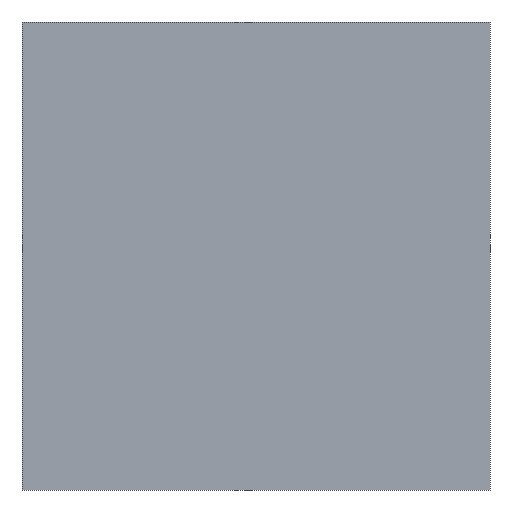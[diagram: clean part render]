
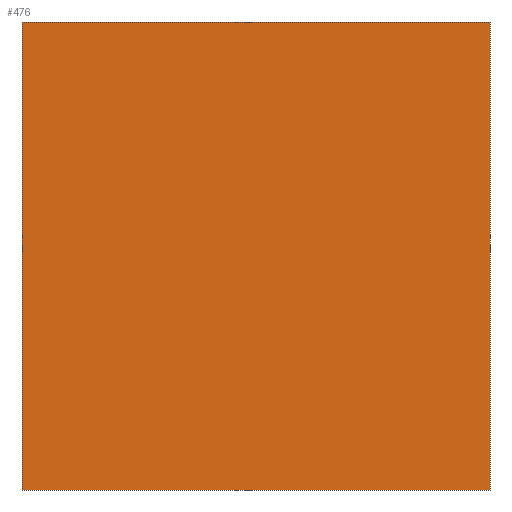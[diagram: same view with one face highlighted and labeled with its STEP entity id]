
A CAD part, front view. The second image highlights one B-rep face of the part: STEP entity #476.
In plain terms, the highlighted planar face has unit normal (0, -1, 0).
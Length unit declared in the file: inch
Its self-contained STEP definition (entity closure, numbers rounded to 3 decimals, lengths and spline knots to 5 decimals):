
#365=CARTESIAN_POINT('',(0.0,0.0,0.812));
#366=VERTEX_POINT('',#365);
#373=CARTESIAN_POINT('',(0.812,0.0,0.812));
#374=VERTEX_POINT('',#373);
#375=CARTESIAN_POINT('',(0.812,0.0,0.812));
#376=DIRECTION('',(-1.0,0.0,0.0));
#377=VECTOR('',#376,0.812);
#378=LINE('',#375,#377);
#379=EDGE_CURVE('',#374,#366,#378,.T.);
#419=CARTESIAN_POINT('',(0.0,0.0,0.0));
#420=VERTEX_POINT('',#419);
#427=CARTESIAN_POINT('',(0.0,0.0,0.0));
#428=DIRECTION('',(0.0,0.0,1.0));
#429=VECTOR('',#428,0.812);
#430=LINE('',#427,#429);
#431=EDGE_CURVE('',#420,#366,#430,.T.);
#442=CARTESIAN_POINT('',(0.812,0.0,0.0));
#443=VERTEX_POINT('',#442);
#444=CARTESIAN_POINT('',(0.812,0.0,0.0));
#445=DIRECTION('',(0.0,0.0,1.0));
#446=VECTOR('',#445,0.812);
#447=LINE('',#444,#446);
#448=EDGE_CURVE('',#443,#374,#447,.T.);
#460=CARTESIAN_POINT('',(0.812,0.0,0.0));
#461=DIRECTION('',(0.0,-1.0,0.0));
#462=DIRECTION('',(0.0,0.0,-1.0));
#463=AXIS2_PLACEMENT_3D('',#460,#461,#462);
#464=PLANE('',#463);
#465=ORIENTED_EDGE('',*,*,#379,.T.);
#466=ORIENTED_EDGE('',*,*,#431,.F.);
#467=CARTESIAN_POINT('',(0.0,0.0,0.0));
#468=DIRECTION('',(1.0,0.0,0.0));
#469=VECTOR('',#468,0.812);
#470=LINE('',#467,#469);
#471=EDGE_CURVE('',#420,#443,#470,.T.);
#472=ORIENTED_EDGE('',*,*,#471,.T.);
#473=ORIENTED_EDGE('',*,*,#448,.T.);
#474=EDGE_LOOP('',(#465,#466,#472,#473));
#475=FACE_OUTER_BOUND('',#474,.T.);
#476=ADVANCED_FACE('',(#475),#464,.T.);
